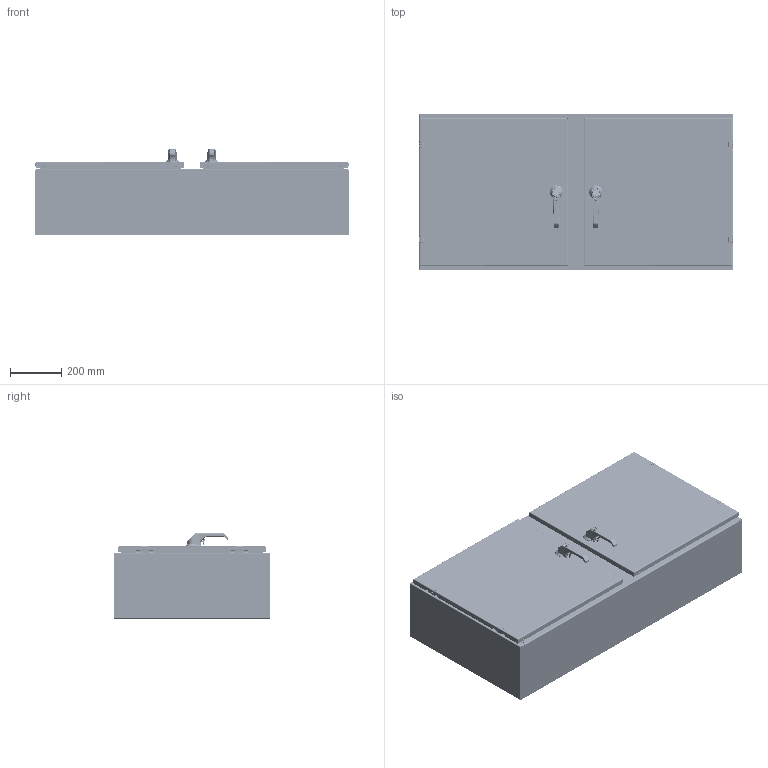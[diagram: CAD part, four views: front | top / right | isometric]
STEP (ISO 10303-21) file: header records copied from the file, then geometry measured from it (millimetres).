
FILE_DESCRIPTION((''),'2;1');
FILE_NAME('MODEL-324_ASM','2025-12-29T11:20:42',('ChadS'),('SAGINAW CONTROL & ENGINEERING'),'CREO PARAMETRIC BY PTC INC, 2021284','CREO PARAMETRIC BY PTC INC, 2021284','');
FILE_SCHEMA(('AUTOMOTIVE_DESIGN { 1 0 10303 214 1 1 1 1 }'));
Length unit declared in the file: inch
Products named in the file (73): MODEL-324-BDY; MODEL-324-TP; MODEL-324-BTM; 128379; 100028; 128379_ASM; MODEL-324-CCA-CHNL; 100062; 127618; 128380; 102535; MODEL-324-CCASSY_ASM; MODEL-324-R-DR; 100837; 100882; 111541; 100955_SCREW_MTG; 100955_PADLOCK_CATCH; 100955_SCREW_LARGE; 100955_INSERT_SHAFT; 100955_INSERT_PKH; 100955_GASKET; 100955_O-RING; 100955_BASE; 100955_SPRING; 100955_HANDLE; 100955_CAM_SHAFT; 100955_HANDLE_ASM; 100955_CAM_ADAPTER; 100955_EARTH_NUT; 100955_FLANGE_NUT; 100955_CAM_NUT; 100955_KEY_INSERT; 100955_SPRING_CAM; 100955_TORSION_SPRING; 100955_SCREW_INSERT; 100955_ASM; 128142; 100030; 128142_ASM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
Assembly tree (165 placements, depth 5):
  MODEL-324_ASM
    MODEL-324-BDY
    MODEL-324-TP
    MODEL-324-BTM
    128379_ASM  x2
      128379
      100028
    MODEL-324-CCASSY_ASM
      MODEL-324-CCA-CHNL
      100062  x2
      127618  x2
      128380  x2
      102535  x8
    MODEL-324-RIGHT-DR-ASSY_ASM
      MODEL-324-R-DR
      100837  x5
      100882  x4
      111541
      100955_ASM
        100955_SCREW_MTG
        100955_PADLOCK_CATCH
        100955_SCREW_LARGE  x2
        100955_INSERT_SHAFT
        100955_INSERT_PKH
        100955_GASKET
        100955_O-RING
        100955_BASE
        100955_SPRING
        100955_HANDLE_ASM
          100955_HANDLE
          100955_CAM_SHAFT
        100955_CAM_ADAPTER
        100955_EARTH_NUT
        100955_FLANGE_NUT
        100955_CAM_NUT
        100955_KEY_INSERT
        100955_SPRING_CAM
        100955_TORSION_SPRING
        100955_SCREW_INSERT
      128142_ASM
        128142
        100030  x2
      MODEL-324-ROD-UPR-RD_ASM
        MODEL-324-ROD-UPR-RD
        128146
        128145
        128144
        102482  x2
      128143  x2
      112504  x2
      MODEL-324-ROD-LWR-RD_ASM
        MODEL-324-ROD-LWR-RD
        128146
        128145
        128144
        102482  x2
      MODEL-324-GSKT-R-DR
      126391_ASM  x2
        126391
      126393  x2
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Bounding box: 1219.2 x 609.6 x 332.5 mm (x, y, z)
Volume: 8165963.7 mm3; surface area: 7287660.4 mm2
Topology: 196 solids, 196 shells, 17166 faces, 42858 edges, 26024 vertices
Faces by surface type: plane 6081, cylinder 4573, bspline 3020, torus 1566, cone 1262, sphere 604, extrusion 60
Entity records: 370849 total; most frequent: CARTESIAN_POINT 147883, ORIENTED_EDGE 34570, DIRECTION 31592, PRESENTATION_STYLE_ASSIGNMENT 17358, STYLED_ITEM 17353, CURVE_STYLE 17285, EDGE_CURVE 17285, AXIS2_PLACEMENT_3D 11683
